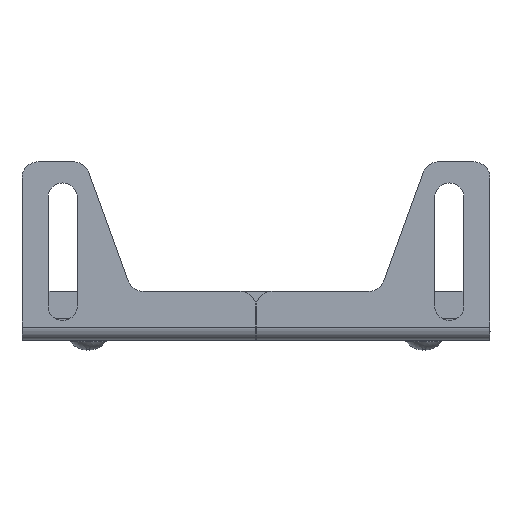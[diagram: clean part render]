
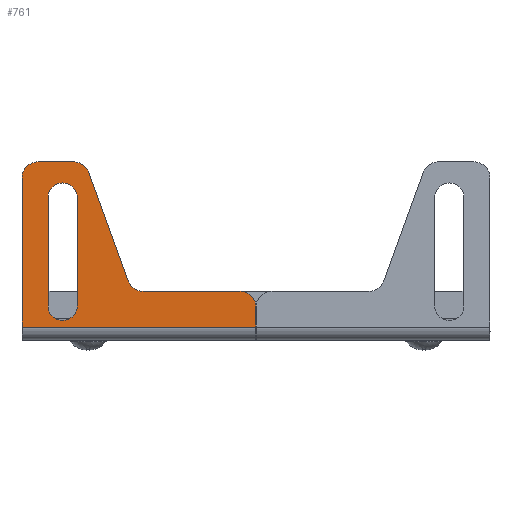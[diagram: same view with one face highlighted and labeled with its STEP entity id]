
A CAD part, left-side view. The second image highlights one B-rep face of the part: STEP entity #761.
In plain terms, the highlighted planar face has unit normal (-1, 0, 0) as drawn and (0, 0, -1) by its records, which use the part's own axes.
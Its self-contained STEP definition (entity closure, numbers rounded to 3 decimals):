
#278 = PLANE ( 'NONE',  #2353 ) ;
#280 = CARTESIAN_POINT ( 'NONE',  ( -6., 3., 0. ) ) ;
#282 = DIRECTION ( 'NONE',  ( 0., 0., 1. ) ) ;
#283 = DIRECTION ( 'NONE',  ( 1., 0., 0. ) ) ;
#569 = CARTESIAN_POINT ( 'NONE',  ( -26.3, 35.7, 0. ) ) ;
#616 = DIRECTION ( 'NONE',  ( 1., 0., 0. ) ) ;
#646 = DIRECTION ( 'NONE',  ( 0., 0., 1. ) ) ;
#707 = CARTESIAN_POINT ( 'NONE',  ( -6., 0., 0. ) ) ;
#726 = CARTESIAN_POINT ( 'NONE',  ( -32.9, 33.702, 0. ) ) ;
#731 = CARTESIAN_POINT ( 'NONE',  ( -9., 20.802, 0. ) ) ;
#732 = CARTESIAN_POINT ( 'NONE',  ( -26.3, 38.4, 0. ) ) ;
#741 = CARTESIAN_POINT ( 'NONE',  ( -29.9, 43.2, 0. ) ) ;
#761 = ADVANCED_FACE ( 'NONE', ( #1844, #1843 ), #278, .F. ) ;
#887 = EDGE_LOOP ( 'NONE', ( #1234, #1199, #1140, #1249, #1245 ) ) ;
#940 = VERTEX_POINT ( 'NONE', #707 ) ;
#973 = VERTEX_POINT ( 'NONE', #726 ) ;
#977 = VERTEX_POINT ( 'NONE', #741 ) ;
#980 = VERTEX_POINT ( 'NONE', #731 ) ;
#982 = VERTEX_POINT ( 'NONE', #732 ) ;
#1139 = ORIENTED_EDGE ( 'NONE', *, *, #1525, .F. ) ;
#1140 = ORIENTED_EDGE ( 'NONE', *, *, #1456, .T. ) ;
#1199 = ORIENTED_EDGE ( 'NONE', *, *, #1566, .T. ) ;
#1202 = ORIENTED_EDGE ( 'NONE', *, *, #1564, .F. ) ;
#1205 = ORIENTED_EDGE ( 'NONE', *, *, #1556, .F. ) ;
#1218 = ORIENTED_EDGE ( 'NONE', *, *, #1516, .F. ) ;
#1222 = ORIENTED_EDGE ( 'NONE', *, *, #1537, .F. ) ;
#1228 = ORIENTED_EDGE ( 'NONE', *, *, #1509, .F. ) ;
#1229 = ORIENTED_EDGE ( 'NONE', *, *, #1479, .F. ) ;
#1231 = ORIENTED_EDGE ( 'NONE', *, *, #1497, .T. ) ;
#1234 = ORIENTED_EDGE ( 'NONE', *, *, #1563, .T. ) ;
#1238 = ORIENTED_EDGE ( 'NONE', *, *, #1499, .F. ) ;
#1245 = ORIENTED_EDGE ( 'NONE', *, *, #1539, .T. ) ;
#1248 = ORIENTED_EDGE ( 'NONE', *, *, #1496, .F. ) ;
#1249 = ORIENTED_EDGE ( 'NONE', *, *, #1540, .T. ) ;
#1456 = EDGE_CURVE ( 'NONE', #982, #4476, #2076, .T. ) ;
#1479 = EDGE_CURVE ( 'NONE', #980, #4461, #2061, .T. ) ;
#1496 = EDGE_CURVE ( 'NONE', #4456, #977, #2150, .T. ) ;
#1497 = EDGE_CURVE ( 'NONE', #4456, #4463, #2090, .T. ) ;
#1499 = EDGE_CURVE ( 'NONE', #4461, #940, #2102, .T. ) ;
#1509 = EDGE_CURVE ( 'NONE', #940, #4463, #2131, .T. ) ;
#1516 = EDGE_CURVE ( 'NONE', #977, #4460, #2133, .T. ) ;
#1525 = EDGE_CURVE ( 'NONE', #973, #4468, #2195, .T. ) ;
#1537 = EDGE_CURVE ( 'NONE', #4460, #973, #2210, .T. ) ;
#1539 = EDGE_CURVE ( 'NONE', #4437, #4475, #2167, .T. ) ;
#1540 = EDGE_CURVE ( 'NONE', #4476, #4437, #2213, .T. ) ;
#1556 = EDGE_CURVE ( 'NONE', #4468, #4458, #2165, .T. ) ;
#1563 = EDGE_CURVE ( 'NONE', #4475, #4469, #2279, .T. ) ;
#1564 = EDGE_CURVE ( 'NONE', #4458, #980, #2267, .T. ) ;
#1566 = EDGE_CURVE ( 'NONE', #4469, #982, #2254, .T. ) ;
#1757 = EDGE_LOOP ( 'NONE', ( #1248, #1231, #1228, #1238, #1229, #1202, #1205, #1139, #1222, #1218 ) ) ;
#1843 = FACE_BOUND ( 'NONE', #887, .T. ) ;
#1844 = FACE_OUTER_BOUND ( 'NONE', #1757, .T. ) ;
#2053 = VECTOR ( 'NONE', #2779, 1000. ) ;
#2061 = LINE ( 'NONE', #2744, #2053 ) ;
#2076 = CIRCLE ( 'NONE', #2296, 2.7 ) ;
#2090 = LINE ( 'NONE', #2791, #2096 ) ;
#2096 = VECTOR ( 'NONE', #2793, 1000. ) ;
#2102 = CIRCLE ( 'NONE', #2286, 3. ) ;
#2111 = VECTOR ( 'NONE', #2841, 1000. ) ;
#2131 = LINE ( 'NONE', #2861, #2132 ) ;
#2132 = VECTOR ( 'NONE', #2867, 1000. ) ;
#2133 = CIRCLE ( 'NONE', #2298, 3. ) ;
#2150 = LINE ( 'NONE', #2848, #2111 ) ;
#2165 = LINE ( 'NONE', #2932, #2198 ) ;
#2167 = LINE ( 'NONE', #2926, #2181 ) ;
#2181 = VECTOR ( 'NONE', #2902, 1000. ) ;
#2191 = VECTOR ( 'NONE', #2908, 1000. ) ;
#2195 = CIRCLE ( 'NONE', #2335, 3. ) ;
#2198 = VECTOR ( 'NONE', #2946, 1000. ) ;
#2210 = LINE ( 'NONE', #2918, #2191 ) ;
#2213 = CIRCLE ( 'NONE', #2334, 2.7 ) ;
#2254 = LINE ( 'NONE', #2980, #2263 ) ;
#2263 = VECTOR ( 'NONE', #2990, 1000. ) ;
#2267 = CIRCLE ( 'NONE', #2303, 3. ) ;
#2279 = CIRCLE ( 'NONE', #2305, 2.7 ) ;
#2286 = AXIS2_PLACEMENT_3D ( 'NONE', #2819, #2812, #2814 ) ;
#2296 = AXIS2_PLACEMENT_3D ( 'NONE', #569, #646, #616 ) ;
#2298 = AXIS2_PLACEMENT_3D ( 'NONE', #2871, #2875, #2856 ) ;
#2303 = AXIS2_PLACEMENT_3D ( 'NONE', #2993, #2982, #2987 ) ;
#2305 = AXIS2_PLACEMENT_3D ( 'NONE', #2985, #3001, #2978 ) ;
#2334 = AXIS2_PLACEMENT_3D ( 'NONE', #2905, #2907, #2910 ) ;
#2335 = AXIS2_PLACEMENT_3D ( 'NONE', #2881, #2882, #2909 ) ;
#2353 = AXIS2_PLACEMENT_3D ( 'NONE', #280, #282, #283 ) ;
#2744 = CARTESIAN_POINT ( 'NONE',  ( -9., 3., 0. ) ) ;
#2779 = DIRECTION ( 'NONE',  ( 0., -1., 0. ) ) ;
#2791 = CARTESIAN_POINT ( 'NONE',  ( -2.4, 3., 0. ) ) ;
#2793 = DIRECTION ( 'NONE',  ( 0., -1., 0. ) ) ;
#2812 = DIRECTION ( 'NONE',  ( 0., 0., 1. ) ) ;
#2814 = DIRECTION ( 'NONE',  ( 1., 0., 0. ) ) ;
#2819 = CARTESIAN_POINT ( 'NONE',  ( -6., 3., 0. ) ) ;
#2841 = DIRECTION ( 'NONE',  ( -1., 0., 0. ) ) ;
#2848 = CARTESIAN_POINT ( 'NONE',  ( -29.9, 43.2, 0. ) ) ;
#2856 = DIRECTION ( 'NONE',  ( 1., 0., 0. ) ) ;
#2861 = CARTESIAN_POINT ( 'NONE',  ( -6., 0., 0. ) ) ;
#2867 = DIRECTION ( 'NONE',  ( 1., 0., 0. ) ) ;
#2871 = CARTESIAN_POINT ( 'NONE',  ( -29.9, 40.2, 0. ) ) ;
#2875 = DIRECTION ( 'NONE',  ( 0., 0., 1. ) ) ;
#2881 = CARTESIAN_POINT ( 'NONE',  ( -29.9, 33.702, 0. ) ) ;
#2882 = DIRECTION ( 'NONE',  ( 0., 0., 1. ) ) ;
#2902 = DIRECTION ( 'NONE',  ( 1., 0., 0. ) ) ;
#2905 = CARTESIAN_POINT ( 'NONE',  ( -26.3, 35.7, 0. ) ) ;
#2907 = DIRECTION ( 'NONE',  ( 0., 0., 1. ) ) ;
#2908 = DIRECTION ( 'NONE',  ( 0., -1., 0. ) ) ;
#2909 = DIRECTION ( 'NONE',  ( 1., 0., 0. ) ) ;
#2910 = DIRECTION ( 'NONE',  ( 1., 0., 0. ) ) ;
#2918 = CARTESIAN_POINT ( 'NONE',  ( -32.9, 40.2, 0. ) ) ;
#2926 = CARTESIAN_POINT ( 'NONE',  ( -6.3, 33., 0. ) ) ;
#2932 = CARTESIAN_POINT ( 'NONE',  ( -30.926, 30.883, 0. ) ) ;
#2946 = DIRECTION ( 'NONE',  ( 0.94, -0.342, 0. ) ) ;
#2978 = DIRECTION ( 'NONE',  ( 1., 0., 0. ) ) ;
#2980 = CARTESIAN_POINT ( 'NONE',  ( -26.3, 38.4, 0. ) ) ;
#2982 = DIRECTION ( 'NONE',  ( 0., 0., -1. ) ) ;
#2985 = CARTESIAN_POINT ( 'NONE',  ( -6.3, 35.7, 0. ) ) ;
#2987 = DIRECTION ( 'NONE',  ( 1., 0., 0. ) ) ;
#2990 = DIRECTION ( 'NONE',  ( -1., 0., 0. ) ) ;
#2993 = CARTESIAN_POINT ( 'NONE',  ( -12., 20.802, 0. ) ) ;
#3001 = DIRECTION ( 'NONE',  ( 0., 0., 1. ) ) ;
#3929 = CARTESIAN_POINT ( 'NONE',  ( -26.3, 33., 0. ) ) ;
#3934 = CARTESIAN_POINT ( 'NONE',  ( -10.974, 23.621, 0. ) ) ;
#3936 = CARTESIAN_POINT ( 'NONE',  ( -30.926, 30.883, 0. ) ) ;
#3947 = CARTESIAN_POINT ( 'NONE',  ( -32.9, 40.2, 0. ) ) ;
#3950 = CARTESIAN_POINT ( 'NONE',  ( -6.3, 38.4, 0. ) ) ;
#3951 = CARTESIAN_POINT ( 'NONE',  ( -2.4, 43.2, 0. ) ) ;
#3955 = CARTESIAN_POINT ( 'NONE',  ( -9., 3., 0. ) ) ;
#3957 = CARTESIAN_POINT ( 'NONE',  ( -6.3, 33., 0. ) ) ;
#3965 = CARTESIAN_POINT ( 'NONE',  ( -2.4, 0., 0. ) ) ;
#3973 = CARTESIAN_POINT ( 'NONE',  ( -29., 35.7, 0. ) ) ;
#4437 = VERTEX_POINT ( 'NONE', #3929 ) ;
#4456 = VERTEX_POINT ( 'NONE', #3951 ) ;
#4458 = VERTEX_POINT ( 'NONE', #3934 ) ;
#4460 = VERTEX_POINT ( 'NONE', #3947 ) ;
#4461 = VERTEX_POINT ( 'NONE', #3955 ) ;
#4463 = VERTEX_POINT ( 'NONE', #3965 ) ;
#4468 = VERTEX_POINT ( 'NONE', #3936 ) ;
#4469 = VERTEX_POINT ( 'NONE', #3950 ) ;
#4475 = VERTEX_POINT ( 'NONE', #3957 ) ;
#4476 = VERTEX_POINT ( 'NONE', #3973 ) ;
